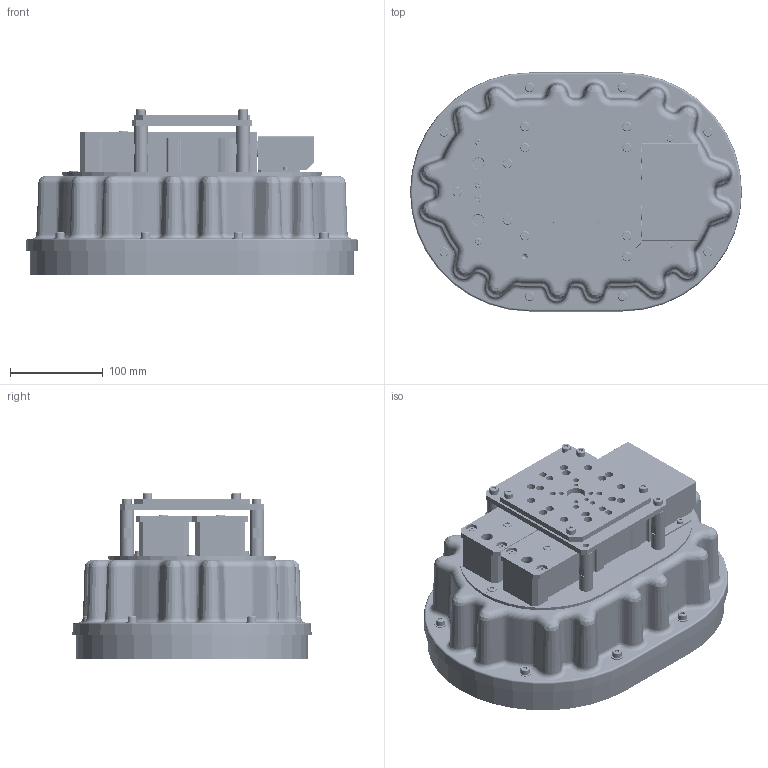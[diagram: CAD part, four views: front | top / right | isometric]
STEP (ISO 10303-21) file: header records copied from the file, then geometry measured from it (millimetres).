
FILE_DESCRIPTION(('STEP AP214'),'1');
FILE_NAME('SGP-H3A-250X350-CRT30.stp','2025-01-18T04:40:19',(' '),(' '),'Spatial InterOp 3D',' ',' ');
FILE_SCHEMA(('AUTOMOTIVE_DESIGN { 1 0 10303 214 1 1 1 1 }'));
Length unit declared in the file: millimetre
Products named in the file (149): SGP-H3A-250X350-CRT30; M6用WS; M6*L8; ねじ: 穴付き - M6.0 x 8.0; Top Plate; Body; Under Plate; SGP CVZ Assy; プラグ; SGP-サイレンサ; CTX-0418-3000; CTX-0418-3001; CTX-0418-3002; RTWS13; M4*50六角穴付ボルト; _FCBS4-40-10; SGP-000-3050(供給ベース); CVZ-015-3002; Filter Assy; SGP-000-3101(Vフィルタ); SGP-000-3101(Vフィルタ押さえ板); _NKJ3-4; FL-Assy; Base; CB6; ねじ : 穴付き - M6.0 x 12.0; ねじ: 穴付き - M6.0 x 20.0; SGP-000-3302 FLプレートA; Cover; CB4; ねじ: 穴付き - M4.0 x 8.0; Ring; Pad; CBSTS6-12; Stopper; shaft 01; Gasket; CB5; ねじ: 穴付き - M5.0 x 10.0; SETS15-50-SC20-M6-N6
Assembly tree (148 placements, depth 5):
  SGP-H3A-250X350-CRT30
    M6用WS
    M6用WS
    M6用WS
    M6用WS
    M6用WS
    M6用WS
    M6用WS
    M6用WS
    M6*L8
      ねじ: 穴付き - M6.0 x 8.0
    M6*L8
      ねじ: 穴付き - M6.0 x 8.0
    M6*L8
      ねじ: 穴付き - M6.0 x 8.0
    M6*L8
      ねじ: 穴付き - M6.0 x 8.0
    M6*L8
      ねじ: 穴付き - M6.0 x 8.0
    M6*L8
      ねじ: 穴付き - M6.0 x 8.0
    M6*L8
      ねじ: 穴付き - M6.0 x 8.0
    M6*L8
    Top Plate
    Body
    Under Plate
    SGP CVZ Assy
      プラグ
      SGP-サイレンサ
        CTX-0418-3000
        CTX-0418-3001
        CTX-0418-3002
        CTX-0418-3002
        RTWS13
      SGP-サイレンサ
        CTX-0418-3000
        CTX-0418-3001
        CTX-0418-3002
        CTX-0418-3002
        RTWS13
      M4*50六角穴付ボルト
        M4*50六角穴付ボルト
          _FCBS4-40-10
        M4*50六角穴付ボルト
          _FCBS4-40-10
        M4*50六角穴付ボルト
          _FCBS4-40-10
        M4*50六角穴付ボルト
          _FCBS4-40-10
        M4*50六角穴付ボルト
          _FCBS4-40-10
        M4*50六角穴付ボルト
          _FCBS4-40-10
      SGP-000-3050(供給ベース)
      CVZ-015-3002
      CVZ-015-3002
    プラグ
    SGP CVZ Assy
      プラグ
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Bounding box: 357.7 x 257.7 x 178.82 mm (x, y, z)
Volume: 2401825.3 mm3; surface area: 1177485.1 mm2
Topology: 106 solids, 106 shells, 2812 faces, 6656 edges, 4241 vertices
Faces by surface type: plane 1295, cylinder 956, cone 303, torus 154, bspline 96, sphere 8
Full cylindrical faces by diameter (mm): 1.5 x9, 2.5 x2, 2.693 x8, 3 x24, 3.3 x12, 3.5 x16, 4 x36, 4.5 x24, 4.917 x8, 5 x17, 5.5 x4, 6 x67, 6.6 x8, 6.9 x2, 7 x60, 8 x12, 8.385 x2, 8.5 x1, 9 x24, 9.4 x4, 9.87 x19, 10 x10, 10.5 x4, 11 x2, 11.4 x4, 11.8 x4, 12 x14, 13 x28, 13.6 x8, 13.85 x8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
Entity records: 106062 total; most frequent: CARTESIAN_POINT 15575, DIRECTION 14290, ORIENTED_EDGE 11512, EDGE_CURVE 5756, AXIS2_PLACEMENT_3D 5683, EDGE_LOOP 4370, VERTEX_POINT 4120, FACE_OUTER_BOUND 3360
